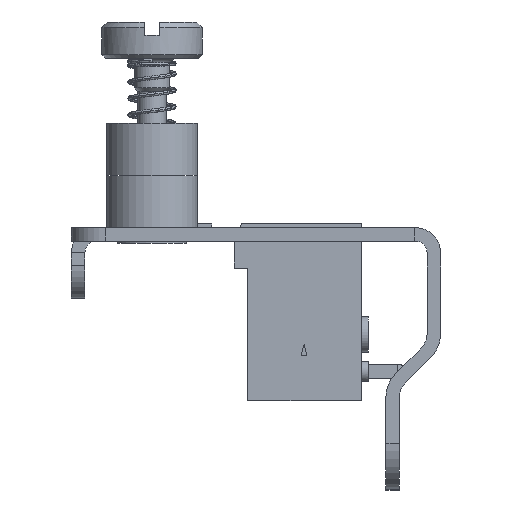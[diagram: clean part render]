
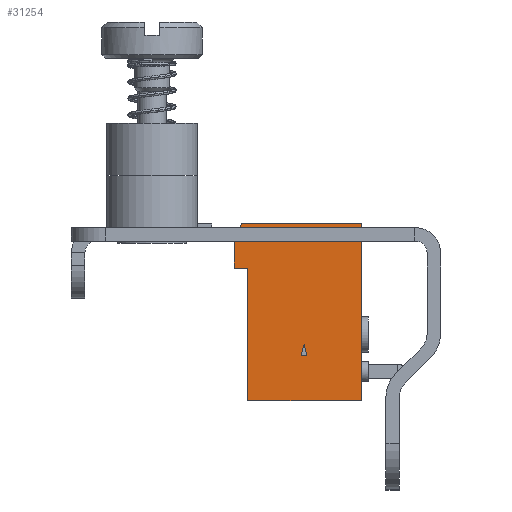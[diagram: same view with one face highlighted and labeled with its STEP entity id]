
A CAD part, left-side view. The second image highlights one B-rep face of the part: STEP entity #31254.
In plain terms, the highlighted planar face has unit normal (-1, 0, 0) as drawn and (0, 0, 1) by its records, which use the part's own axes.
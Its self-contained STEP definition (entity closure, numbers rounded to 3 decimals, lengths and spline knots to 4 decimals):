
#2033=FACE_BOUND('',#5441,.T.);
#3565=FACE_OUTER_BOUND('',#5440,.T.);
#5440=EDGE_LOOP('',(#25365,#25366,#25367,#25368,#25369,#25370,#25371));
#5441=EDGE_LOOP('',(#25372,#25373,#25374));
#8312=LINE('',#53119,#11663);
#8315=LINE('',#53125,#11666);
#8317=LINE('',#53128,#11668);
#8318=LINE('',#53133,#11669);
#8319=LINE('',#53135,#11670);
#8320=LINE('',#53137,#11671);
#8321=LINE('',#53139,#11672);
#8322=LINE('',#53141,#11673);
#8323=LINE('',#53143,#11674);
#8324=LINE('',#53144,#11675);
#11663=VECTOR('',#38335,0.0394);
#11666=VECTOR('',#38340,0.0394);
#11668=VECTOR('',#38344,0.0394);
#11669=VECTOR('',#38349,0.0394);
#11670=VECTOR('',#38350,0.0394);
#11671=VECTOR('',#38351,0.0394);
#11672=VECTOR('',#38352,0.0394);
#11673=VECTOR('',#38353,0.0394);
#11674=VECTOR('',#38354,0.0394);
#11675=VECTOR('',#38355,0.0394);
#14756=VERTEX_POINT('',#53113);
#14758=VERTEX_POINT('',#53117);
#14760=VERTEX_POINT('',#53123);
#14761=VERTEX_POINT('',#53131);
#14762=VERTEX_POINT('',#53132);
#14763=VERTEX_POINT('',#53134);
#14764=VERTEX_POINT('',#53136);
#14765=VERTEX_POINT('',#53138);
#14766=VERTEX_POINT('',#53140);
#14767=VERTEX_POINT('',#53142);
#18411=EDGE_CURVE('',#14758,#14756,#8312,.T.);
#18414=EDGE_CURVE('',#14760,#14758,#8315,.T.);
#18416=EDGE_CURVE('',#14756,#14760,#8317,.T.);
#18417=EDGE_CURVE('',#14761,#14762,#8318,.T.);
#18418=EDGE_CURVE('',#14763,#14762,#8319,.T.);
#18419=EDGE_CURVE('',#14764,#14763,#8320,.T.);
#18420=EDGE_CURVE('',#14765,#14764,#8321,.T.);
#18421=EDGE_CURVE('',#14765,#14766,#8322,.T.);
#18422=EDGE_CURVE('',#14767,#14766,#8323,.T.);
#18423=EDGE_CURVE('',#14767,#14761,#8324,.T.);
#25365=ORIENTED_EDGE('',*,*,#18417,.T.);
#25366=ORIENTED_EDGE('',*,*,#18418,.F.);
#25367=ORIENTED_EDGE('',*,*,#18419,.F.);
#25368=ORIENTED_EDGE('',*,*,#18420,.F.);
#25369=ORIENTED_EDGE('',*,*,#18421,.T.);
#25370=ORIENTED_EDGE('',*,*,#18422,.F.);
#25371=ORIENTED_EDGE('',*,*,#18423,.T.);
#25372=ORIENTED_EDGE('',*,*,#18414,.F.);
#25373=ORIENTED_EDGE('',*,*,#18416,.F.);
#25374=ORIENTED_EDGE('',*,*,#18411,.F.);
#29504=PLANE('',#33231);
#31254=ADVANCED_FACE('',(#3565,#2033),#29504,.T.);
#33231=AXIS2_PLACEMENT_3D('',#53130,#38347,#38348);
#38335=DIRECTION('',(0.,-1.,0.));
#38340=DIRECTION('',(-0.966,0.259,0.));
#38344=DIRECTION('',(0.966,0.259,0.));
#38347=DIRECTION('center_axis',(0.,0.,1.));
#38348=DIRECTION('ref_axis',(1.,0.,0.));
#38349=DIRECTION('',(0.,1.,0.));
#38350=DIRECTION('',(0.94,-0.342,0.));
#38351=DIRECTION('',(1.,0.,0.));
#38352=DIRECTION('',(0.,1.,0.));
#38353=DIRECTION('',(-1.,0.,0.));
#38354=DIRECTION('',(0.,1.,0.));
#38355=DIRECTION('',(1.,0.,0.));
#53113=CARTESIAN_POINT('',(0.5138,0.4988,1.5));
#53117=CARTESIAN_POINT('',(0.5138,0.5146,1.5));
#53119=CARTESIAN_POINT('',(0.5138,-1.1328,1.5));
#53123=CARTESIAN_POINT('',(0.5433,0.5067,1.5));
#53125=CARTESIAN_POINT('',(-1.0483,0.9332,1.5));
#53128=CARTESIAN_POINT('',(-1.0483,0.0802,1.5));
#53130=CARTESIAN_POINT('Origin',(0.7991,0.3766,1.5));
#53131=CARTESIAN_POINT('',(0.8661,0.3543,1.5));
#53132=CARTESIAN_POINT('',(0.8661,0.6732,1.5));
#53133=CARTESIAN_POINT('',(0.8661,-1.1328,1.5));
#53134=CARTESIAN_POINT('',(0.8121,0.6929,1.5));
#53135=CARTESIAN_POINT('',(-1.0483,1.37,1.5));
#53136=CARTESIAN_POINT('',(0.748,0.6929,1.5));
#53137=CARTESIAN_POINT('',(-1.0483,0.6929,1.5));
#53138=CARTESIAN_POINT('',(0.748,0.6563,1.5));
#53139=CARTESIAN_POINT('',(0.748,-1.1328,1.5));
#53140=CARTESIAN_POINT('',(0.3937,0.6563,1.5));
#53141=CARTESIAN_POINT('',(-1.0483,0.6563,1.5));
#53142=CARTESIAN_POINT('',(0.3937,0.3543,1.5));
#53143=CARTESIAN_POINT('',(0.3937,-1.1328,1.5));
#53144=CARTESIAN_POINT('',(-1.0483,0.3543,1.5));
